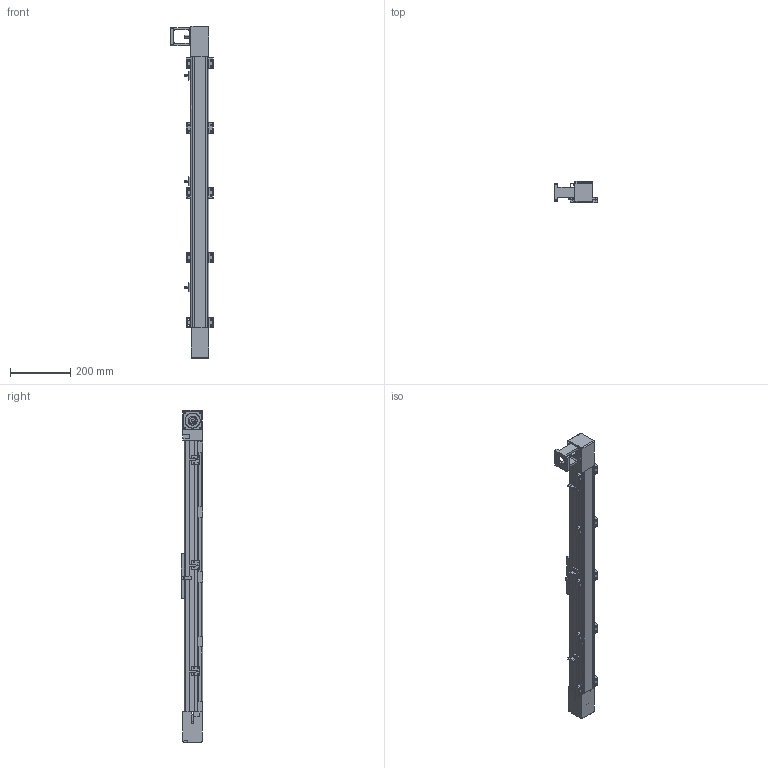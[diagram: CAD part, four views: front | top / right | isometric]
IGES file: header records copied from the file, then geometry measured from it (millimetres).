
Start section: SolidWorks IGES file using analytic representation for surfaces
Bounding box: 141 x 70 x 1100 mm (x, y, z)
Surface area: 536536.3 mm2 (no closed solid volume)
Topology: 0 solids, 0 shells, 901 faces, 12386 edges, 12334 vertices
Faces by surface type: bspline 563, revolution 338
